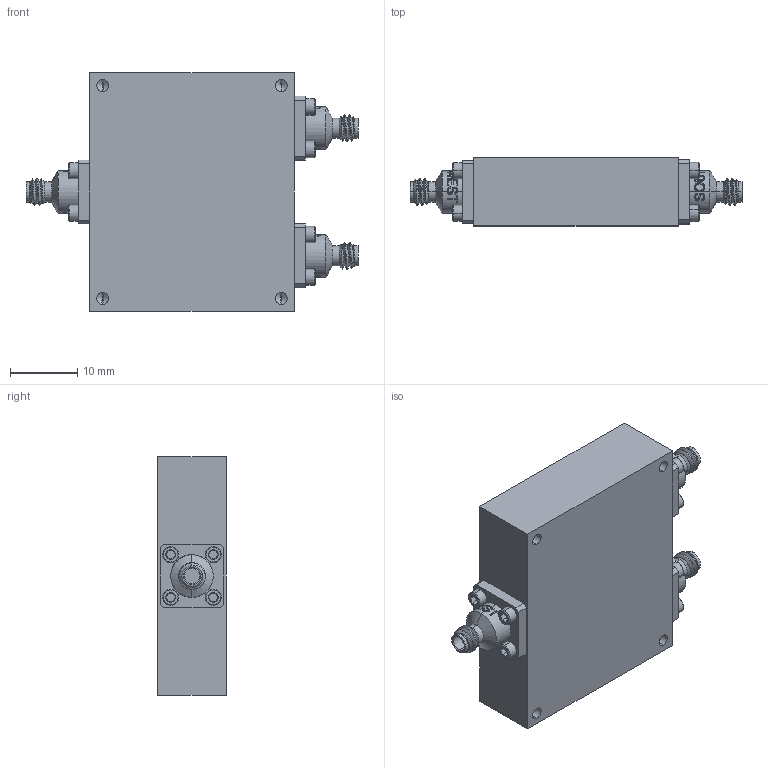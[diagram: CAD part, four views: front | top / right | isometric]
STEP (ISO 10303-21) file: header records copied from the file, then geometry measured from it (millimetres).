
FILE_DESCRIPTION (( 'STEP AP214' ), '1' );
FILE_NAME ('HL9409-JJJ.STEP', '2023-02-25T18:00:37', ( '' ), ( '' ), 'SwSTEP 2.0', 'SolidWorks 2023', '' );
FILE_SCHEMA (( 'AUTOMOTIVE_DESIGN' ));
Length unit declared in the file: millimetre
Products named in the file (6): 0-80x3-16_flathead_phillips; 100235-0; 1.00mm J 4H .375SQ; 0-80x1-8_Socket Head Cap Screw_92196A052_18-8 Stainless Steel Socket Head Screw_92196A052; HL9409-JJJ; 100234-1
Assembly tree (21 placements, depth 2):
  HL9409-JJJ
    100234-1
    100235-0
    1.00mm J 4H .375SQ  x3
    0-80x3-16_flathead_phillips  x4
    0-80x1-8_Socket Head Cap Screw_92196A052_18-8 Stainless Steel Socket Head Screw_92196A052  x12
Bounding box: 49.53 x 10.16 x 35.56 mm (x, y, z)
Volume: 8366.3 mm3; surface area: 8328.8 mm2
Topology: 21 solids, 21 shells, 1284 faces, 3217 edges, 2020 vertices
Faces by surface type: cylinder 482, plane 386, cone 284, bspline 108, torus 24
Entity records: 15942 total; most frequent: CARTESIAN_POINT 6673, ORIENTED_EDGE 1852, DIRECTION 1614, EDGE_CURVE 926, AXIS2_PLACEMENT_3D 628, VERTEX_POINT 597, EDGE_LOOP 423, ADVANCED_FACE 364
